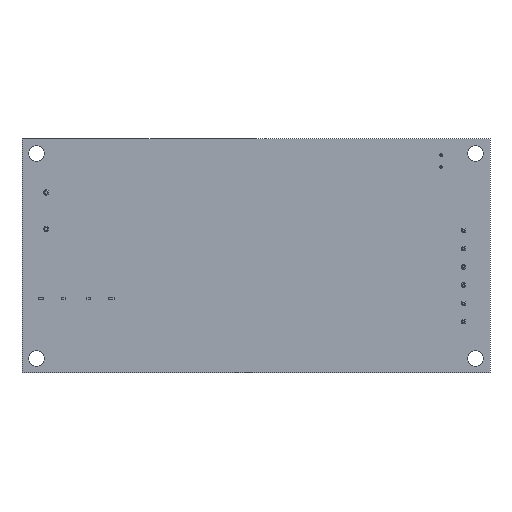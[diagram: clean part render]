
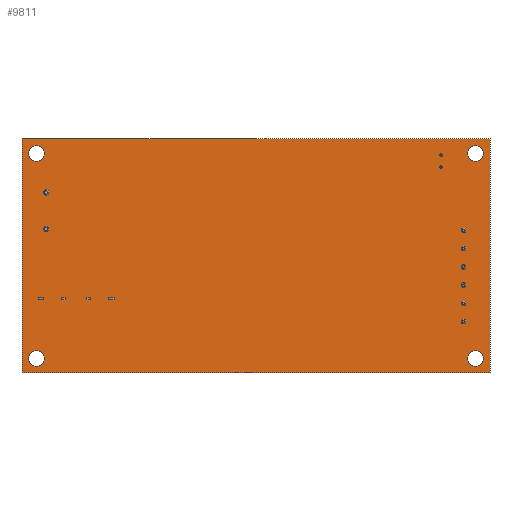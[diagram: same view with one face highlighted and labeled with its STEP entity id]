
A CAD part, front view. The second image highlights one B-rep face of the part: STEP entity #9811.
In plain terms, the highlighted planar face has unit normal (0, -1, 0).
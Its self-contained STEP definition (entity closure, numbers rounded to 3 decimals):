
#723 = EDGE_CURVE ( 'NONE', #9513, #9471, #3293, .T. ) ;
#726 = EDGE_CURVE ( 'NONE', #9454, #9414, #3292, .T. ) ;
#888 = EDGE_LOOP ( 'NONE', ( #904, #908, #899, #9820 ) ) ;
#890 = ORIENTED_EDGE ( 'NONE', *, *, #9449, .T. ) ;
#892 = ORIENTED_EDGE ( 'NONE', *, *, #916, .T. ) ;
#899 = ORIENTED_EDGE ( 'NONE', *, *, #9537, .F. ) ;
#901 = ORIENTED_EDGE ( 'NONE', *, *, #9428, .T. ) ;
#903 = ORIENTED_EDGE ( 'NONE', *, *, #726, .T. ) ;
#904 = ORIENTED_EDGE ( 'NONE', *, *, #9477, .F. ) ;
#908 = ORIENTED_EDGE ( 'NONE', *, *, #9620, .F. ) ;
#911 = ORIENTED_EDGE ( 'NONE', *, *, #723, .T. ) ;
#914 = ORIENTED_EDGE ( 'NONE', *, *, #9456, .T. ) ;
#916 = EDGE_CURVE ( 'NONE', #9520, #9462, #2328, .T. ) ;
#2325 = DIRECTION ( 'NONE',  ( 0., 0., 1. ) ) ;
#2326 = DIRECTION ( 'NONE',  ( 0., 1., 0. ) ) ;
#2327 = AXIS2_PLACEMENT_3D ( 'NONE', #2332, #2326, #2325 ) ;
#2328 = CIRCLE ( 'NONE', #2327, 1.7 ) ;
#2332 = CARTESIAN_POINT ( 'NONE',  ( 3.175, 0., 3.175 ) ) ;
#3086 = DIRECTION ( 'NONE',  ( 0., 0., 1. ) ) ;
#3087 = DIRECTION ( 'NONE',  ( 0., 1., 0. ) ) ;
#3088 = CARTESIAN_POINT ( 'NONE',  ( 98.425, 0., 47.625 ) ) ;
#3093 = AXIS2_PLACEMENT_3D ( 'NONE', #3088, #3087, #3086 ) ;
#3098 = DIRECTION ( 'NONE',  ( 0., 0., 1. ) ) ;
#3099 = DIRECTION ( 'NONE',  ( 0., 1., 0. ) ) ;
#3100 = CARTESIAN_POINT ( 'NONE',  ( 3.175, 0., 47.625 ) ) ;
#3286 = AXIS2_PLACEMENT_3D ( 'NONE', #3100, #3099, #3098 ) ;
#3292 = CIRCLE ( 'NONE', #3093, 1.7 ) ;
#3293 = CIRCLE ( 'NONE', #3286, 1.7 ) ;
#5002 = DIRECTION ( 'NONE',  ( 0., 1., 0. ) ) ;
#5003 = CARTESIAN_POINT ( 'NONE',  ( 98.425, 0., 47.625 ) ) ;
#5004 = AXIS2_PLACEMENT_3D ( 'NONE', #5003, #5002, #5157 ) ;
#5157 = DIRECTION ( 'NONE',  ( 0., 0., 1. ) ) ;
#5618 = CARTESIAN_POINT ( 'NONE',  ( 98.425, 0., 45.925 ) ) ;
#5622 = CARTESIAN_POINT ( 'NONE',  ( 98.425, 0., 1.475 ) ) ;
#5665 = CIRCLE ( 'NONE', #5004, 1.7 ) ;
#5684 = DIRECTION ( 'NONE',  ( 0., 0., 1. ) ) ;
#5685 = VECTOR ( 'NONE', #5684, 1000. ) ;
#5686 = CARTESIAN_POINT ( 'NONE',  ( 0., 0., 0. ) ) ;
#5687 = LINE ( 'NONE', #5686, #5685 ) ;
#5705 = CARTESIAN_POINT ( 'NONE',  ( 3.175, 0., 45.925 ) ) ;
#5715 = DIRECTION ( 'NONE',  ( 0., 0., 1. ) ) ;
#5716 = DIRECTION ( 'NONE',  ( 0., 1., 0. ) ) ;
#5717 = CARTESIAN_POINT ( 'NONE',  ( 98.425, 0., 3.175 ) ) ;
#5719 = CARTESIAN_POINT ( 'NONE',  ( 0., 0., 50.8 ) ) ;
#5721 = AXIS2_PLACEMENT_3D ( 'NONE', #5717, #5716, #5715 ) ;
#5724 = CARTESIAN_POINT ( 'NONE',  ( 98.425, 0., 4.875 ) ) ;
#5730 = DIRECTION ( 'NONE',  ( 0., 0., 1. ) ) ;
#5731 = DIRECTION ( 'NONE',  ( 0., 1., 0. ) ) ;
#5732 = CARTESIAN_POINT ( 'NONE',  ( 3.175, 0., 47.625 ) ) ;
#5734 = CARTESIAN_POINT ( 'NONE',  ( 98.425, 0., 49.325 ) ) ;
#5736 = CIRCLE ( 'NONE', #5721, 1.7 ) ;
#5737 = CARTESIAN_POINT ( 'NONE',  ( 3.175, 0., 1.475 ) ) ;
#5743 = DIRECTION ( 'NONE',  ( 0., 0., 1. ) ) ;
#5744 = DIRECTION ( 'NONE',  ( 0., 1., 0. ) ) ;
#5745 = AXIS2_PLACEMENT_3D ( 'NONE', #5753, #5744, #5743 ) ;
#5753 = CARTESIAN_POINT ( 'NONE',  ( 3.175, 0., 3.175 ) ) ;
#5760 = CIRCLE ( 'NONE', #5745, 1.7 ) ;
#5761 = CARTESIAN_POINT ( 'NONE',  ( 3.175, 0., 4.875 ) ) ;
#5766 = CARTESIAN_POINT ( 'NONE',  ( 101.6, 0., 50.8 ) ) ;
#5780 = CARTESIAN_POINT ( 'NONE',  ( 3.175, 0., 49.325 ) ) ;
#5782 = CARTESIAN_POINT ( 'NONE',  ( 0., 0., 0. ) ) ;
#5799 = AXIS2_PLACEMENT_3D ( 'NONE', #5732, #5731, #5730 ) ;
#5848 = DIRECTION ( 'NONE',  ( 0., 0., -1. ) ) ;
#5849 = VECTOR ( 'NONE', #5848, 1000. ) ;
#5850 = CARTESIAN_POINT ( 'NONE',  ( 101.6, 0., 0. ) ) ;
#5851 = LINE ( 'NONE', #5850, #5849 ) ;
#5852 = DIRECTION ( 'NONE',  ( 1., 0., 0. ) ) ;
#5853 = VECTOR ( 'NONE', #5852, 1000. ) ;
#5854 = CARTESIAN_POINT ( 'NONE',  ( 0., 0., 50.8 ) ) ;
#5855 = LINE ( 'NONE', #5854, #5853 ) ;
#5883 = CIRCLE ( 'NONE', #5799, 1.7 ) ;
#5965 = CARTESIAN_POINT ( 'NONE',  ( 101.6, 0., 0. ) ) ;
#5991 = DIRECTION ( 'NONE',  ( -1., 0., 0. ) ) ;
#5992 = VECTOR ( 'NONE', #5991, 1000. ) ;
#5993 = CARTESIAN_POINT ( 'NONE',  ( 0., 0., 0. ) ) ;
#6000 = LINE ( 'NONE', #5993, #5992 ) ;
#6316 = DIRECTION ( 'NONE',  ( 0., 0., 1. ) ) ;
#6320 = FACE_BOUND ( 'NONE', #9818, .T. ) ;
#6321 = DIRECTION ( 'NONE',  ( 0., 0., 1. ) ) ;
#6322 = DIRECTION ( 'NONE',  ( 0., 1., 0. ) ) ;
#6323 = CARTESIAN_POINT ( 'NONE',  ( 98.425, 0., 3.175 ) ) ;
#6324 = AXIS2_PLACEMENT_3D ( 'NONE', #6323, #6322, #6321 ) ;
#6325 = FACE_BOUND ( 'NONE', #9824, .T. ) ;
#6328 = FACE_OUTER_BOUND ( 'NONE', #888, .T. ) ;
#6329 = FACE_BOUND ( 'NONE', #9806, .T. ) ;
#6334 = AXIS2_PLACEMENT_3D ( 'NONE', #6344, #6343, #6316 ) ;
#6335 = FACE_BOUND ( 'NONE', #9805, .T. ) ;
#6343 = DIRECTION ( 'NONE',  ( 0., 1., 0. ) ) ;
#6344 = CARTESIAN_POINT ( 'NONE',  ( 0., 0., 50.8 ) ) ;
#6345 = PLANE ( 'NONE',  #6334 ) ;
#6358 = CIRCLE ( 'NONE', #6324, 1.7 ) ;
#9414 = VERTEX_POINT ( 'NONE', #5618 ) ;
#9417 = VERTEX_POINT ( 'NONE', #5622 ) ;
#9428 = EDGE_CURVE ( 'NONE', #9414, #9454, #5665, .T. ) ;
#9449 = EDGE_CURVE ( 'NONE', #9471, #9513, #5883, .T. ) ;
#9454 = VERTEX_POINT ( 'NONE', #5734 ) ;
#9455 = VERTEX_POINT ( 'NONE', #5724 ) ;
#9456 = EDGE_CURVE ( 'NONE', #9417, #9455, #5736, .T. ) ;
#9462 = VERTEX_POINT ( 'NONE', #5737 ) ;
#9465 = VERTEX_POINT ( 'NONE', #5719 ) ;
#9471 = VERTEX_POINT ( 'NONE', #5705 ) ;
#9477 = EDGE_CURVE ( 'NONE', #9525, #9465, #5687, .T. ) ;
#9513 = VERTEX_POINT ( 'NONE', #5780 ) ;
#9520 = VERTEX_POINT ( 'NONE', #5761 ) ;
#9525 = VERTEX_POINT ( 'NONE', #5782 ) ;
#9526 = VERTEX_POINT ( 'NONE', #5766 ) ;
#9531 = EDGE_CURVE ( 'NONE', #9462, #9520, #5760, .T. ) ;
#9535 = EDGE_CURVE ( 'NONE', #9465, #9526, #5855, .T. ) ;
#9537 = EDGE_CURVE ( 'NONE', #9526, #9591, #5851, .T. ) ;
#9591 = VERTEX_POINT ( 'NONE', #5965 ) ;
#9620 = EDGE_CURVE ( 'NONE', #9591, #9525, #6000, .T. ) ;
#9804 = ORIENTED_EDGE ( 'NONE', *, *, #9531, .T. ) ;
#9805 = EDGE_LOOP ( 'NONE', ( #903, #901 ) ) ;
#9806 = EDGE_LOOP ( 'NONE', ( #892, #9804 ) ) ;
#9810 = EDGE_CURVE ( 'NONE', #9455, #9417, #6358, .T. ) ;
#9811 = ADVANCED_FACE ( 'NONE', ( #6320, #6335, #6325, #6329, #6328 ), #6345, .F. ) ;
#9812 = ORIENTED_EDGE ( 'NONE', *, *, #9810, .T. ) ;
#9818 = EDGE_LOOP ( 'NONE', ( #9812, #914 ) ) ;
#9820 = ORIENTED_EDGE ( 'NONE', *, *, #9535, .F. ) ;
#9824 = EDGE_LOOP ( 'NONE', ( #911, #890 ) ) ;
